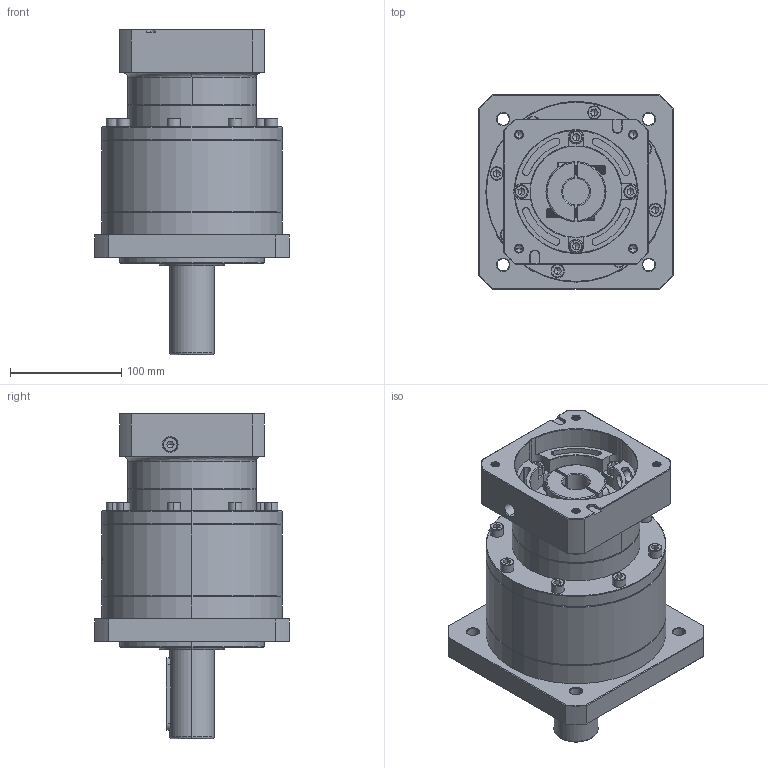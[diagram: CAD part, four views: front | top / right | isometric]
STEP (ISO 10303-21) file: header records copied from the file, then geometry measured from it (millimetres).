
FILE_DESCRIPTION (( 'STEP AP214' ), '1' );
FILE_NAME ('ZF160A-D40-L2-P2-24-110-145-M8.step', '2023-09-03T07:54:38', ( '' ), ( '' ), 'SwSTEP 2.0', 'SolidWorks 2016', '' );
FILE_SCHEMA (( 'AUTOMOTIVE_DESIGN' ));
Length unit declared in the file: millimetre
Products named in the file (1): ZF160A-D40-L2-P2-24-110-145-M8
Bounding box: 175 x 175 x 292.2 mm (x, y, z)
Volume: 3584421.8 mm3; surface area: 282122.8 mm2
Topology: 6 solids, 6 shells, 2485 faces, 6582 edges, 4218 vertices
Faces by surface type: plane 1145, cylinder 514, bspline 407, cone 361, torus 58
Entity records: 135273 total; most frequent: CARTESIAN_POINT 51558, ORIENTED_EDGE 13056, DIRECTION 9974, EDGE_CURVE 6528, VERTEX_POINT 4218, LINE 3456, VECTOR 3456, AXIS2_PLACEMENT_3D 3259
